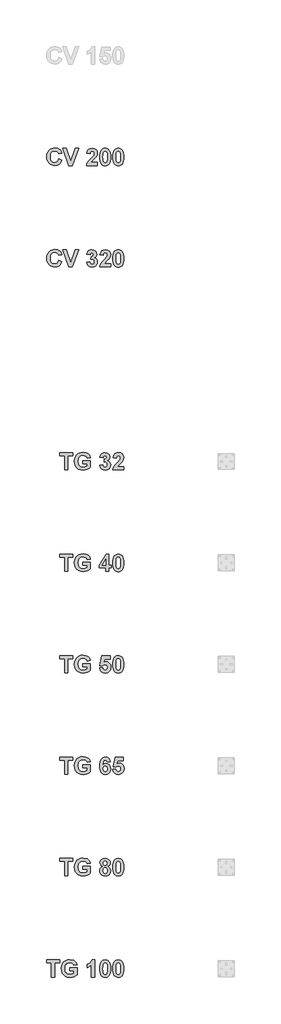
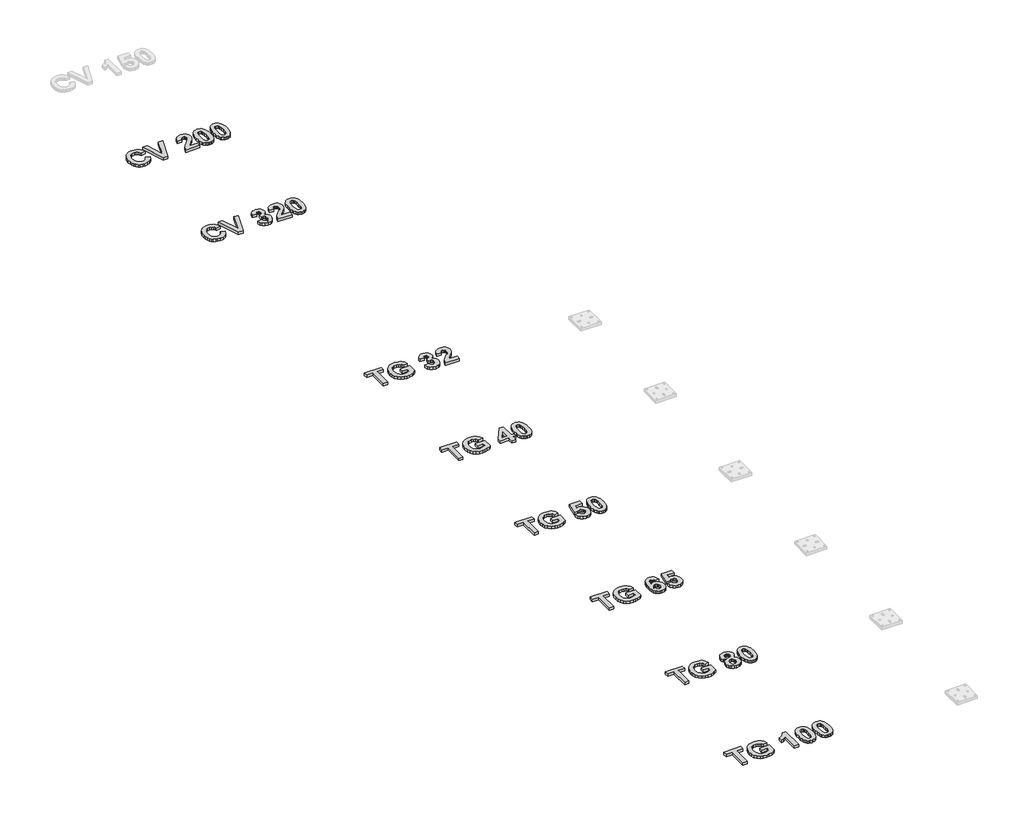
# One storey, part 7 of 9: 8 proxies.
"""IFC4 building model written with IfcOpenShell, lengths in millimetres."""

from ifc_helpers import new_model, si_unit, origin, origin_with_axes, place, context, project, spatial, polyline, outline, extrude, element, save

model = new_model("IFC4")

# Units and contexts
model_context = context("Model", 3, world=origin())
ifc_project = project(units=[si_unit("LENGTHUNIT", "METRE", prefix="MILLI")], contexts=[model_context])

# Site, building, storey
site = spatial("IfcSite", under=ifc_project)
building = spatial("IfcBuilding", under=site)
storey = spatial("IfcBuildingStorey", under=building, Name="Этаж 01", Elevation=0.0)

# Proxies
placement = place(None, origin())
element("IfcBuildingElementProxy", 1, Name="Wellmix_Надпись1", ObjectType="Wellmix_Надпись1", at=placement, inside=storey, context=model_context, shape_type="SweptSolid", body=[
    extrude(outline(polyline([(23888.8435957, -10506.6386509), (23937.4273767, -10522.8332446), (23922.1026098, -10558.6147564), (23911.5816592, -10572.5497773), (23899.1549972, -10583.8476414), (23868.7901341, -10598.81657), (23831.213616, -10603.8062128), (23806.8861417, -10601.6751372), (23784.8281246, -10595.2819101), (23765.0395647, -10584.6265317), (23747.5204621, -10569.709002), (23733.1841348, -10551.0947083), (23722.943901, -10529.3490381), (23716.7997607, -10504.4719914), (23714.751714, -10476.4635682), (23716.8175527, -10446.9289944), (23723.0150687, -10420.8895428), (23733.344262, -10398.3452134), (23747.8051327, -10379.2960063), (23765.6346053, -10364.1570661), (23786.0696047, -10353.3435374), (23809.1101307, -10346.8554202), (23834.7561833, -10344.6927144), (23857.1818999, -10346.4758594), (23877.3935119, -10351.8252943), (23895.3910193, -10360.741019), (23911.1744221, -10373.2230337), (23926.499189, -10393.7351313), (23937.4273767, -10421.6170343), (23888.8435957, -10429.7143311), (23881.4026228, -10412.9108587), (23868.6952439, -10400.0769595), (23851.7019911, -10391.9401251), (23831.4033964, -10389.227847), (23803.9564068, -10394.1542297), (23782.2186442, -10408.9333779), (23773.9572664, -10420.3103172), (23768.0562822, -10434.735604), (23763.3354949, -10472.7312205), (23767.913947, -10512.8065138), (23773.637012, -10527.7912574), (23781.649303, -10539.407399), (23802.7228343, -10554.30516), (23829.315812, -10559.2710803), (23849.3929963, -10556.1001662), (23866.4811393, -10546.5874239), (23879.8685646, -10530.2584025), (23888.8435957, -10506.6386509)])), origin_with_axes(), (0.0, 0.0, 1.0), 30.0),
    extrude(outline(polyline([(24039.592489, -10603.8062128), (23953.6219703, -10348.7413629), (24004.8626768, -10348.7413629), (24069.0084501, -10539.0278382), (24133.3440038, -10348.7413629), (24184.3949298, -10348.7413629), (24093.8696817, -10603.8062128), (24039.592489, -10603.8062128)])), origin_with_axes(), (0.0, 0.0, 1.0), 30.0),
    extrude(outline(polyline([(24463.7516703, -10555.2224319), (24463.7516703, -10603.8062128), (24301.8057338, -10603.8062128), (24306.9772495, -10579.3008194), (24317.304466, -10556.1397038), (24336.4881009, -10529.9579169), (24368.2288718, -10496.3905096), (24405.8053899, -10455.650985), (24412.8272645, -10440.9430044), (24415.1678894, -10426.4248043), (24413.1989178, -10412.2782574), (24407.292003, -10401.8482432), (24397.921596, -10395.4194323), (24385.5621478, -10393.2764954), (24373.2896823, -10395.3878023), (24363.8006626, -10401.7217229), (24357.4113893, -10412.9424888), (24354.4381632, -10429.7143311), (24305.8543822, -10425.2861219), (24314.4577601, -10390.1372114), (24322.0806059, -10376.898052), (24331.9175564, -10366.5490899), (24356.5415625, -10353.1932946), (24386.6375701, -10348.7413629), (24418.7737168, -10353.7310057), (24443.1921276, -10368.6999343), (24458.6117846, -10391.0861133), (24463.7516703, -10418.3275074), (24458.1215186, -10450.4636542), (24440.2821615, -10482.4100206), (24410.0754488, -10514.2931268), (24382.3358811, -10541.9378043), (24373.2264222, -10555.2224319), (24463.7516703, -10555.2224319)])), origin_with_axes(), (0.0, 0.0, 1.0), 30.0),
    extrude(outline(polyline([(24577.1138259, -10348.7413629), (24594.2454602, -10350.3861263), (24609.3923079, -10355.3204165), (24622.554369, -10363.5442336), (24633.7316435, -10375.0575775), (24644.3870219, -10393.185559), (24651.9980065, -10416.4455185), (24656.5645972, -10444.8374563), (24658.0867941, -10478.3613722), (24656.5566897, -10511.853658), (24651.9663764, -10540.2772258), (24644.3158542, -10563.6320756), (24633.6051232, -10581.9182074), (24622.4832014, -10593.2654934), (24609.3606779, -10601.3706978), (24594.2375527, -10606.2338204), (24577.1138259, -10607.8548613), (24559.8062493, -10606.0756701), (24544.2580951, -10600.7380965), (24530.4693633, -10591.8421405), (24518.4400539, -10579.3878021), (24508.6841555, -10562.366873), (24501.7156567, -10539.7711448), (24497.5345574, -10511.6006175), (24496.1408576, -10477.8552911), (24497.670962, -10444.5290631), (24502.2612753, -10416.2241081), (24509.9117975, -10392.9404259), (24520.6225285, -10374.6780167), (24531.7444503, -10363.3307307), (24544.8669739, -10355.2255263), (24559.990099, -10350.3624037), (24577.1138259, -10348.7413629)]), holes=[polyline([(24577.1138259, -10393.2764954), (24560.9192322, -10398.6219765), (24554.5932191, -10406.0945795), (24549.9119693, -10417.8214264), (24546.0214712, -10441.9709816), (24544.7246386, -10478.3613722), (24545.879136, -10514.2694043), (24549.3426282, -10536.8453637), (24554.5694965, -10550.0983612), (24561.0141224, -10558.0375077), (24577.1138259, -10563.3197287), (24593.3084195, -10557.9742476), (24599.6344326, -10550.5016446), (24604.3156824, -10538.7747977), (24608.2061805, -10514.7517628), (24609.5030132, -10478.3613722), (24608.3485158, -10442.4928777), (24604.8850236, -10419.9090107), (24599.6581552, -10406.6164756), (24593.2135293, -10398.6219765), (24577.1138259, -10393.2764954)])]), origin_with_axes(), (0.0, 0.0, 1.0), 30.0),
    extrude(outline(polyline([(24771.4489497, -10348.7413629), (24788.580584, -10350.3861263), (24803.7274317, -10355.3204165), (24816.8894928, -10363.5442336), (24828.0667673, -10375.0575775), (24838.7221457, -10393.185559), (24846.3331303, -10416.4455185), (24850.899721, -10444.8374563), (24852.4219179, -10478.3613722), (24850.8918135, -10511.853658), (24846.3015002, -10540.2772258), (24838.650978, -10563.6320756), (24827.940247, -10581.9182074), (24816.8183252, -10593.2654934), (24803.6958017, -10601.3706978), (24788.5726765, -10606.2338204), (24771.4489497, -10607.8548613), (24754.1413731, -10606.0756701), (24738.5932189, -10600.7380965), (24724.8044871, -10591.8421405), (24712.7751777, -10579.3878021), (24703.0192793, -10562.366873), (24696.0507805, -10539.7711448), (24691.8696812, -10511.6006175), (24690.4759814, -10477.8552911), (24692.0060858, -10444.5290631), (24696.5963991, -10416.2241081), (24704.2469213, -10392.9404259), (24714.9576523, -10374.6780167), (24726.0795741, -10363.3307307), (24739.2020977, -10355.2255263), (24754.3252228, -10350.3624037), (24771.4489497, -10348.7413629)]), holes=[polyline([(24771.4489497, -10393.2764954), (24755.254356, -10398.6219765), (24748.9283429, -10406.0945795), (24744.2470931, -10417.8214264), (24740.3565951, -10441.9709816), (24739.0597624, -10478.3613722), (24740.2142598, -10514.2694043), (24743.677752, -10536.8453637), (24748.9046203, -10550.0983612), (24755.3492462, -10558.0375077), (24771.4489497, -10563.3197287), (24787.6435433, -10557.9742476), (24793.9695565, -10550.5016446), (24798.6508062, -10538.7747977), (24802.5413043, -10514.7517628), (24803.838137, -10478.3613722), (24802.6836396, -10442.4928777), (24799.2201474, -10419.9090107), (24793.993279, -10406.6164756), (24787.5486531, -10398.6219765), (24771.4489497, -10393.2764954)])]), origin_with_axes(), (0.0, 0.0, 1.0), 30.0),
])
element("IfcBuildingElementProxy", 2, Name="Wellmix_Надпись1", ObjectType="Wellmix_Надпись1", at=placement, inside=storey, context=model_context, shape_type="SweptSolid", body=[
    extrude(outline(polyline([(23888.8435957, -12006.6386509), (23937.4273767, -12022.8332446), (23922.1026098, -12058.6147564), (23911.5816592, -12072.5497773), (23899.1549972, -12083.8476414), (23868.7901341, -12098.81657), (23831.213616, -12103.8062128), (23806.8861417, -12101.6751372), (23784.8281246, -12095.2819101), (23765.0395647, -12084.6265317), (23747.5204621, -12069.709002), (23733.1841348, -12051.0947083), (23722.943901, -12029.3490381), (23716.7997607, -12004.4719914), (23714.751714, -11976.4635682), (23716.8175527, -11946.9289944), (23723.0150687, -11920.8895428), (23733.344262, -11898.3452134), (23747.8051327, -11879.2960063), (23765.6346053, -11864.1570661), (23786.0696047, -11853.3435374), (23809.1101307, -11846.8554202), (23834.7561833, -11844.6927144), (23857.1818999, -11846.4758594), (23877.3935119, -11851.8252943), (23895.3910193, -11860.741019), (23911.1744221, -11873.2230337), (23926.499189, -11893.7351313), (23937.4273767, -11921.6170343), (23888.8435957, -11929.7143311), (23881.4026228, -11912.9108587), (23868.6952439, -11900.0769595), (23851.7019911, -11891.9401251), (23831.4033964, -11889.227847), (23803.9564068, -11894.1542297), (23782.2186442, -11908.9333779), (23773.9572664, -11920.3103172), (23768.0562822, -11934.735604), (23763.3354949, -11972.7312205), (23767.913947, -12012.8065138), (23773.637012, -12027.7912574), (23781.649303, -12039.407399), (23802.7228343, -12054.30516), (23829.315812, -12059.2710803), (23849.3929963, -12056.1001662), (23866.4811393, -12046.5874239), (23879.8685646, -12030.2584025), (23888.8435957, -12006.6386509)])), origin_with_axes(), (0.0, 0.0, 1.0), 30.0),
    extrude(outline(polyline([(24039.592489, -12103.8062128), (23953.6219703, -11848.7413629), (24004.8626768, -11848.7413629), (24069.0084501, -12039.0278382), (24133.3440038, -11848.7413629), (24184.3949298, -11848.7413629), (24093.8696817, -12103.8062128), (24039.592489, -12103.8062128)])), origin_with_axes(), (0.0, 0.0, 1.0), 30.0),
    extrude(outline(polyline([(24301.8057338, -12032.5120447), (24350.3895148, -12026.881893), (24354.1376775, -12042.5071455), (24361.3335175, -12053.9572293), (24371.186283, -12060.9791039), (24382.9052223, -12063.3197287), (24395.4781734, -12060.6390806), (24405.86865, -12052.5971364), (24412.8430795, -12040.0162778), (24415.1678894, -12023.7188864), (24413.0407674, -12008.2992294), (24406.6594017, -11996.4537698), (24397.2099195, -11988.9099991), (24385.8784485, -11986.3954089), (24366.5841084, -11990.0012364), (24370.8225372, -11949.9575732), (24384.6527834, -11948.2179196), (24394.766497, -11941.9867966), (24400.9580823, -11932.1182161), (24403.0219441, -11919.4661898), (24401.4799784, -11908.719875), (24396.8540813, -11900.3932602), (24389.6661489, -11895.0556866), (24380.4380772, -11893.2764954), (24371.0518552, -11895.3403572), (24363.1364312, -11901.5319425), (24357.3718518, -11911.6931012), (24354.4381632, -11925.6656827), (24305.8543822, -11918.3907676), (24311.4133663, -11896.6530049), (24319.2339, -11879.7704573), (24329.9564923, -11866.857483), (24344.2216519, -11857.0284401), (24361.2149047, -11850.8131322), (24380.1217765, -11848.7413629), (24410.7713102, -11854.4822198), (24423.5577643, -11861.6582909), (24434.6520098, -11871.7047906), (24447.3672963, -11891.7266222), (24451.6057251, -11914.2155989), (24449.3323141, -11930.1611058), (24442.5120812, -11944.4064966), (24431.1450263, -11956.9517714), (24415.2311495, -11967.7969302), (24435.0948308, -11975.3486084), (24450.5303028, -11988.6411435), (24460.4463284, -12006.5042232), (24463.7516703, -12027.7675348), (24457.8922006, -12058.5356813), (24440.3137916, -12084.4169826), (24427.8772451, -12094.6710545), (24414.0054844, -12101.9953916), (24381.9563203, -12107.8548613), (24351.694255, -12102.6438079), (24327.0781563, -12087.0106479), (24309.863493, -12062.9638905), (24301.8057338, -12032.5120447)])), origin_with_axes(), (0.0, 0.0, 1.0), 30.0),
    extrude(outline(polyline([(24658.0867941, -12055.2224319), (24658.0867941, -12103.8062128), (24496.1408576, -12103.8062128), (24501.3123734, -12079.3008194), (24511.6395898, -12056.1397038), (24530.8232247, -12029.9579169), (24562.5639956, -11996.3905096), (24600.1405137, -11955.650985), (24607.1623883, -11940.9430044), (24609.5030132, -11926.4248043), (24607.5340416, -11912.2782574), (24601.6271268, -11901.8482432), (24592.2567198, -11895.4194323), (24579.8972716, -11893.2764954), (24567.6248061, -11895.3878023), (24558.1357864, -11901.7217229), (24551.7465131, -11912.9424888), (24548.773287, -11929.7143311), (24500.189506, -11925.2861219), (24508.7928839, -11890.1372114), (24516.4157297, -11876.898052), (24526.2526802, -11866.5490899), (24550.8766863, -11853.1932946), (24580.9726939, -11848.7413629), (24613.1088406, -11853.7310057), (24637.5272514, -11868.6999343), (24652.9469084, -11891.0861133), (24658.0867941, -11918.3275074), (24652.4566424, -11950.4636542), (24634.6172853, -11982.4100206), (24604.4105726, -12014.2931268), (24576.6710049, -12041.9378043), (24567.561546, -12055.2224319), (24658.0867941, -12055.2224319)])), origin_with_axes(), (0.0, 0.0, 1.0), 30.0),
    extrude(outline(polyline([(24771.4489497, -11848.7413629), (24788.580584, -11850.3861263), (24803.7274317, -11855.3204165), (24816.8894928, -11863.5442336), (24828.0667673, -11875.0575775), (24838.7221457, -11893.185559), (24846.3331303, -11916.4455185), (24850.899721, -11944.8374563), (24852.4219179, -11978.3613722), (24850.8918135, -12011.853658), (24846.3015002, -12040.2772258), (24838.650978, -12063.6320756), (24827.940247, -12081.9182074), (24816.8183252, -12093.2654934), (24803.6958017, -12101.3706978), (24788.5726765, -12106.2338204), (24771.4489497, -12107.8548613), (24754.1413731, -12106.0756701), (24738.5932189, -12100.7380965), (24724.8044871, -12091.8421405), (24712.7751777, -12079.3878021), (24703.0192793, -12062.366873), (24696.0507805, -12039.7711448), (24691.8696812, -12011.6006175), (24690.4759814, -11977.8552911), (24692.0060858, -11944.5290631), (24696.5963991, -11916.2241081), (24704.2469213, -11892.9404259), (24714.9576523, -11874.6780167), (24726.0795741, -11863.3307307), (24739.2020977, -11855.2255263), (24754.3252228, -11850.3624037), (24771.4489497, -11848.7413629)]), holes=[polyline([(24771.4489497, -11893.2764954), (24755.254356, -11898.6219765), (24748.9283429, -11906.0945795), (24744.2470931, -11917.8214264), (24740.3565951, -11941.9709816), (24739.0597624, -11978.3613722), (24740.2142598, -12014.2694043), (24743.677752, -12036.8453637), (24748.9046203, -12050.0983612), (24755.3492462, -12058.0375077), (24771.4489497, -12063.3197287), (24787.6435433, -12057.9742476), (24793.9695565, -12050.5016446), (24798.6508062, -12038.7747977), (24802.5413043, -12014.7517628), (24803.838137, -11978.3613722), (24802.6836396, -11942.4928777), (24799.2201474, -11919.9090107), (24793.993279, -11906.6164756), (24787.5486531, -11898.6219765), (24771.4489497, -11893.2764954)])]), origin_with_axes(), (0.0, 0.0, 1.0), 30.0),
])
element("IfcBuildingElementProxy", 3, Name="Wellmix_Надпись1", ObjectType="Wellmix_Надпись1", at=placement, inside=storey, context=model_context, shape_type="SweptSolid", body=[
    extrude(outline(polyline([(23977.9138608, -15103.8062128), (23977.9138608, -14893.2764954), (23905.0381894, -14893.2764954), (23905.0381894, -14848.7413629), (24099.3733132, -14848.7413629), (24099.3733132, -14893.2764954), (24026.4976418, -14893.2764954), (24026.4976418, -15103.8062128), (23977.9138608, -15103.8062128)])), origin_with_axes(), (0.0, 0.0, 1.0), 30.0),
    extrude(outline(polyline([(24249.1733044, -15010.6872994), (24249.1733044, -14966.1521668), (24358.4868116, -14966.1521668), (24358.4868116, -15067.8744582), (24338.971061, -15082.7959417), (24312.3069156, -15095.8038062), (24281.8787924, -15104.8420975), (24251.0711084, -15107.8548613), (24214.2378968, -15103.6638775), (24182.4338658, -15091.0909264), (24156.7818825, -15070.7290716), (24138.4048143, -15043.1713769), (24127.3501063, -15010.6477618), (24123.6652037, -14975.388146), (24127.8324648, -14937.8669805), (24140.3342483, -14904.7582092), (24160.8700685, -14877.453555), (24189.1394397, -14857.3447407), (24216.6259668, -14847.855721), (24250.1222064, -14844.6927144), (24292.3246216, -14849.8009701), (24309.5412618, -14856.1862896), (24324.1681903, -14865.1257369), (24346.0799183, -14889.4650725), (24358.4868116, -14921.6170343), (24309.9030306, -14929.7143311), (24301.7266586, -14912.9108587), (24288.5843663, -14900.0769595), (24271.0138648, -14891.9401251), (24249.5528652, -14889.227847), (24217.7488341, -14894.525883), (24204.5630505, -14901.148428), (24193.1880881, -14910.419991), (24184.0272303, -14922.3010344), (24177.4837605, -14936.7520207), (24172.2489846, -14973.3638218), (24177.4521304, -15012.7195311), (24183.9560627, -15028.1807026), (24193.0615678, -15040.830752), (24204.2783799, -15050.6696793), (24217.1162328, -15057.6974845), (24247.6550613, -15063.3197287), (24281.0880408, -15057.1518659), (24309.9030306, -15042.1908448), (24309.9030306, -15010.6872994), (24249.1733044, -15010.6872994)])), origin_with_axes(), (0.0, 0.0, 1.0), 30.0),
    extrude(outline(polyline([(24496.1408576, -15032.5120447), (24544.7246386, -15026.881893), (24548.4728013, -15042.5071455), (24555.6686413, -15053.9572293), (24565.5214068, -15060.9791039), (24577.2403461, -15063.3197287), (24589.8132972, -15060.6390806), (24600.2037738, -15052.5971364), (24607.1782033, -15040.0162778), (24609.5030132, -15023.7188864), (24607.3758912, -15008.2992294), (24600.9945255, -14996.4537698), (24591.5450433, -14988.9099991), (24580.2135723, -14986.3954089), (24560.9192322, -14990.0012364), (24565.157661, -14949.9575732), (24578.9879072, -14948.2179196), (24589.1016208, -14941.9867966), (24595.2932061, -14932.1182161), (24597.3570679, -14919.4661898), (24595.8151022, -14908.719875), (24591.1892051, -14900.3932602), (24584.0012727, -14895.0556866), (24574.773201, -14893.2764954), (24565.386979, -14895.3403572), (24557.471555, -14901.5319425), (24551.7069756, -14911.6931012), (24548.773287, -14925.6656827), (24500.189506, -14918.3907676), (24505.7484901, -14896.6530049), (24513.5690238, -14879.7704573), (24524.2916161, -14866.857483), (24538.5567757, -14857.0284401), (24555.5500285, -14850.8131322), (24574.4569003, -14848.7413629), (24605.106434, -14854.4822198), (24617.8928881, -14861.6582909), (24628.9871336, -14871.7047906), (24641.7024201, -14891.7266222), (24645.9408489, -14914.2155989), (24643.6674379, -14930.1611058), (24636.847205, -14944.4064966), (24625.4801501, -14956.9517714), (24609.5662733, -14967.7969302), (24629.4299546, -14975.3486084), (24644.8654266, -14988.6411435), (24654.7814522, -15006.5042232), (24658.0867941, -15027.7675348), (24652.2273244, -15058.5356813), (24634.6489154, -15084.4169826), (24622.2123689, -15094.6710545), (24608.3406082, -15101.9953916), (24576.2914441, -15107.8548613), (24546.0293788, -15102.6438079), (24521.4132801, -15087.0106479), (24504.1986168, -15062.9638905), (24496.1408576, -15032.5120447)])), origin_with_axes(), (0.0, 0.0, 1.0), 30.0),
    extrude(outline(polyline([(24852.4219179, -15055.2224319), (24852.4219179, -15103.8062128), (24690.4759814, -15103.8062128), (24695.6474972, -15079.3008194), (24705.9747136, -15056.1397038), (24725.1583485, -15029.9579169), (24756.8991194, -14996.3905096), (24794.4756375, -14955.650985), (24801.4975121, -14940.9430044), (24803.838137, -14926.4248043), (24801.8691654, -14912.2782574), (24795.9622506, -14901.8482432), (24786.5918436, -14895.4194323), (24774.2323954, -14893.2764954), (24761.9599299, -14895.3878023), (24752.4709102, -14901.7217229), (24746.0816369, -14912.9424888), (24743.1084108, -14929.7143311), (24694.5246298, -14925.2861219), (24703.1280077, -14890.1372114), (24710.7508535, -14876.898052), (24720.587804, -14866.5490899), (24745.2118101, -14853.1932946), (24775.3078177, -14848.7413629), (24807.4439644, -14853.7310057), (24831.8623752, -14868.6999343), (24847.2820322, -14891.0861133), (24852.4219179, -14918.3275074), (24846.7917662, -14950.4636542), (24828.9524091, -14982.4100206), (24798.7456964, -15014.2931268), (24771.0061287, -15041.9378043), (24761.8966698, -15055.2224319), (24852.4219179, -15055.2224319)])), origin_with_axes(), (0.0, 0.0, 1.0), 30.0),
])
element("IfcBuildingElementProxy", 4, Name="Wellmix_Надпись1", ObjectType="Wellmix_Надпись1", at=placement, inside=storey, context=model_context, shape_type="SweptSolid", body=[
    extrude(outline(polyline([(23977.9138608, -16603.8062128), (23977.9138608, -16393.2764954), (23905.0381894, -16393.2764954), (23905.0381894, -16348.7413629), (24099.3733132, -16348.7413629), (24099.3733132, -16393.2764954), (24026.4976418, -16393.2764954), (24026.4976418, -16603.8062128), (23977.9138608, -16603.8062128)])), origin_with_axes(), (0.0, 0.0, 1.0), 30.0),
    extrude(outline(polyline([(24249.1733044, -16510.6872994), (24249.1733044, -16466.1521668), (24358.4868116, -16466.1521668), (24358.4868116, -16567.8744582), (24338.971061, -16582.7959417), (24312.3069156, -16595.8038062), (24281.8787924, -16604.8420975), (24251.0711084, -16607.8548613), (24214.2378968, -16603.6638775), (24182.4338658, -16591.0909264), (24156.7818825, -16570.7290716), (24138.4048143, -16543.1713769), (24127.3501063, -16510.6477618), (24123.6652037, -16475.388146), (24127.8324648, -16437.8669805), (24140.3342483, -16404.7582092), (24160.8700685, -16377.453555), (24189.1394397, -16357.3447407), (24216.6259668, -16347.855721), (24250.1222064, -16344.6927144), (24292.3246216, -16349.8009701), (24309.5412618, -16356.1862896), (24324.1681903, -16365.1257369), (24346.0799183, -16389.4650725), (24358.4868116, -16421.6170343), (24309.9030306, -16429.7143311), (24301.7266586, -16412.9108587), (24288.5843663, -16400.0769595), (24271.0138648, -16391.9401251), (24249.5528652, -16389.227847), (24217.7488341, -16394.525883), (24204.5630505, -16401.148428), (24193.1880881, -16410.419991), (24184.0272303, -16422.3010344), (24177.4837605, -16436.7520207), (24172.2489846, -16473.3638218), (24177.4521304, -16512.7195311), (24183.9560627, -16528.1807026), (24193.0615678, -16540.830752), (24204.2783799, -16550.6696793), (24217.1162328, -16557.6974845), (24247.6550613, -16563.3197287), (24281.0880408, -16557.1518659), (24309.9030306, -16542.1908448), (24309.9030306, -16510.6872994), (24249.1733044, -16510.6872994)])), origin_with_axes(), (0.0, 0.0, 1.0), 30.0),
    extrude(outline(polyline([(24585.2111227, -16603.8062128), (24585.2111227, -16551.1737835), (24488.0435608, -16551.1737835), (24488.0435608, -16510.8770797), (24591.6636561, -16352.7900113), (24633.7949036, -16352.7900113), (24633.7949036, -16510.6872994), (24666.1840909, -16510.6872994), (24666.1840909, -16551.1737835), (24633.7949036, -16551.1737835), (24633.7949036, -16603.8062128), (24585.2111227, -16603.8062128)]), holes=[polyline([(24585.2111227, -16510.6872994), (24585.2111227, -16427.8165272), (24530.9339299, -16510.6872994), (24585.2111227, -16510.6872994)])]), origin_with_axes(), (0.0, 0.0, 1.0), 30.0),
    extrude(outline(polyline([(24771.4489497, -16348.7413629), (24788.580584, -16350.3861263), (24803.7274317, -16355.3204165), (24816.8894928, -16363.5442336), (24828.0667673, -16375.0575775), (24838.7221457, -16393.185559), (24846.3331303, -16416.4455185), (24850.899721, -16444.8374563), (24852.4219179, -16478.3613722), (24850.8918135, -16511.853658), (24846.3015002, -16540.2772258), (24838.650978, -16563.6320756), (24827.940247, -16581.9182074), (24816.8183252, -16593.2654934), (24803.6958017, -16601.3706978), (24788.5726765, -16606.2338204), (24771.4489497, -16607.8548613), (24754.1413731, -16606.0756701), (24738.5932189, -16600.7380965), (24724.8044871, -16591.8421405), (24712.7751777, -16579.3878021), (24703.0192793, -16562.366873), (24696.0507805, -16539.7711448), (24691.8696812, -16511.6006175), (24690.4759814, -16477.8552911), (24692.0060858, -16444.5290631), (24696.5963991, -16416.2241081), (24704.2469213, -16392.9404259), (24714.9576523, -16374.6780167), (24726.0795741, -16363.3307307), (24739.2020977, -16355.2255263), (24754.3252228, -16350.3624037), (24771.4489497, -16348.7413629)]), holes=[polyline([(24771.4489497, -16393.2764954), (24755.254356, -16398.6219765), (24748.9283429, -16406.0945795), (24744.2470931, -16417.8214264), (24740.3565951, -16441.9709816), (24739.0597624, -16478.3613722), (24740.2142598, -16514.2694043), (24743.677752, -16536.8453637), (24748.9046203, -16550.0983612), (24755.3492462, -16558.0375077), (24771.4489497, -16563.3197287), (24787.6435433, -16557.9742476), (24793.9695565, -16550.5016446), (24798.6508062, -16538.7747977), (24802.5413043, -16514.7517628), (24803.838137, -16478.3613722), (24802.6836396, -16442.4928777), (24799.2201474, -16419.9090107), (24793.993279, -16406.6164756), (24787.5486531, -16398.6219765), (24771.4489497, -16393.2764954)])]), origin_with_axes(), (0.0, 0.0, 1.0), 30.0),
])
element("IfcBuildingElementProxy", 5, Name="Wellmix_Надпись1", ObjectType="Wellmix_Надпись1", at=placement, inside=storey, context=model_context, shape_type="SweptSolid", body=[
    extrude(outline(polyline([(23977.9138608, -18103.8062128), (23977.9138608, -17893.2764954), (23905.0381894, -17893.2764954), (23905.0381894, -17848.7413629), (24099.3733132, -17848.7413629), (24099.3733132, -17893.2764954), (24026.4976418, -17893.2764954), (24026.4976418, -18103.8062128), (23977.9138608, -18103.8062128)])), origin_with_axes(), (0.0, 0.0, 1.0), 30.0),
    extrude(outline(polyline([(24249.1733044, -18010.6872994), (24249.1733044, -17966.1521668), (24358.4868116, -17966.1521668), (24358.4868116, -18067.8744582), (24338.971061, -18082.7959417), (24312.3069156, -18095.8038062), (24281.8787924, -18104.8420975), (24251.0711084, -18107.8548613), (24214.2378968, -18103.6638775), (24182.4338658, -18091.0909264), (24156.7818825, -18070.7290716), (24138.4048143, -18043.1713769), (24127.3501063, -18010.6477618), (24123.6652037, -17975.388146), (24127.8324648, -17937.8669805), (24140.3342483, -17904.7582092), (24160.8700685, -17877.453555), (24189.1394397, -17857.3447407), (24216.6259668, -17847.855721), (24250.1222064, -17844.6927144), (24292.3246216, -17849.8009701), (24309.5412618, -17856.1862896), (24324.1681903, -17865.1257369), (24346.0799183, -17889.4650725), (24358.4868116, -17921.6170343), (24309.9030306, -17929.7143311), (24301.7266586, -17912.9108587), (24288.5843663, -17900.0769595), (24271.0138648, -17891.9401251), (24249.5528652, -17889.227847), (24217.7488341, -17894.525883), (24204.5630505, -17901.148428), (24193.1880881, -17910.419991), (24184.0272303, -17922.3010344), (24177.4837605, -17936.7520207), (24172.2489846, -17973.3638218), (24177.4521304, -18012.7195311), (24183.9560627, -18028.1807026), (24193.0615678, -18040.830752), (24204.2783799, -18050.6696793), (24217.1162328, -18057.6974845), (24247.6550613, -18063.3197287), (24281.0880408, -18057.1518659), (24309.9030306, -18042.1908448), (24309.9030306, -18010.6872994), (24249.1733044, -18010.6872994)])), origin_with_axes(), (0.0, 0.0, 1.0), 30.0),
    extrude(outline(polyline([(24496.1408576, -18032.0059637), (24540.6759901, -18026.881893), (24544.8195288, -18041.9536193), (24553.0749759, -18053.5144083), (24564.177129, -18060.8683986), (24576.8607853, -18063.3197287), (24591.0547773, -18060.7181558), (24602.8923294, -18052.9134371), (24610.8868285, -18039.8739425), (24613.5516616, -18021.568042), (24611.0766089, -18004.4087313), (24603.651451, -17992.1520808), (24592.2567198, -17984.7980906), (24577.8729474, -17982.3467605), (24559.0530583, -17987.407571), (24542.3207536, -18002.5900025), (24500.189506, -17996.3272495), (24528.5300449, -17852.7900113), (24649.9894973, -17852.7900113), (24649.9894973, -17901.3737922), (24567.8145865, -17901.3737922), (24558.0092662, -17947.7434686), (24573.4921833, -17940.2945881), (24589.3230312, -17937.8116279), (24617.4421597, -17943.5603924), (24640.9432985, -17960.8066857), (24656.8374065, -17987.2256981), (24662.1354425, -18020.4926197), (24657.7230483, -18049.4183148), (24644.4858658, -18075.0861132), (24631.2684521, -18089.4224405), (24615.7183211, -18099.6626742), (24597.8354727, -18105.8068145), (24577.6199069, -18107.8548613), (24546.614535, -18102.7149756), (24521.9193612, -18087.2953185), (24504.7046979, -18063.1932085), (24496.1408576, -18032.0059637)])), origin_with_axes(), (0.0, 0.0, 1.0), 30.0),
    extrude(outline(polyline([(24771.4489497, -17848.7413629), (24788.580584, -17850.3861263), (24803.7274317, -17855.3204165), (24816.8894928, -17863.5442336), (24828.0667673, -17875.0575775), (24838.7221457, -17893.185559), (24846.3331303, -17916.4455185), (24850.899721, -17944.8374563), (24852.4219179, -17978.3613722), (24850.8918135, -18011.853658), (24846.3015002, -18040.2772258), (24838.650978, -18063.6320756), (24827.940247, -18081.9182074), (24816.8183252, -18093.2654934), (24803.6958017, -18101.3706978), (24788.5726765, -18106.2338204), (24771.4489497, -18107.8548613), (24754.1413731, -18106.0756701), (24738.5932189, -18100.7380965), (24724.8044871, -18091.8421405), (24712.7751777, -18079.3878021), (24703.0192793, -18062.366873), (24696.0507805, -18039.7711448), (24691.8696812, -18011.6006175), (24690.4759814, -17977.8552911), (24692.0060858, -17944.5290631), (24696.5963991, -17916.2241081), (24704.2469213, -17892.9404259), (24714.9576523, -17874.6780167), (24726.0795741, -17863.3307307), (24739.2020977, -17855.2255263), (24754.3252228, -17850.3624037), (24771.4489497, -17848.7413629)]), holes=[polyline([(24771.4489497, -17893.2764954), (24755.254356, -17898.6219765), (24748.9283429, -17906.0945795), (24744.2470931, -17917.8214264), (24740.3565951, -17941.9709816), (24739.0597624, -17978.3613722), (24740.2142598, -18014.2694043), (24743.677752, -18036.8453637), (24748.9046203, -18050.0983612), (24755.3492462, -18058.0375077), (24771.4489497, -18063.3197287), (24787.6435433, -18057.9742476), (24793.9695565, -18050.5016446), (24798.6508062, -18038.7747977), (24802.5413043, -18014.7517628), (24803.838137, -17978.3613722), (24802.6836396, -17942.4928777), (24799.2201474, -17919.9090107), (24793.993279, -17906.6164756), (24787.5486531, -17898.6219765), (24771.4489497, -17893.2764954)])]), origin_with_axes(), (0.0, 0.0, 1.0), 30.0),
])
element("IfcBuildingElementProxy", 6, Name="Wellmix_Надпись1", ObjectType="Wellmix_Надпись1", at=placement, inside=storey, context=model_context, shape_type="SweptSolid", body=[
    extrude(outline(polyline([(23977.9138608, -19603.8062128), (23977.9138608, -19393.2764954), (23905.0381894, -19393.2764954), (23905.0381894, -19348.7413629), (24099.3733132, -19348.7413629), (24099.3733132, -19393.2764954), (24026.4976418, -19393.2764954), (24026.4976418, -19603.8062128), (23977.9138608, -19603.8062128)])), origin_with_axes(), (0.0, 0.0, 1.0), 30.0),
    extrude(outline(polyline([(24249.1733044, -19510.6872994), (24249.1733044, -19466.1521668), (24358.4868116, -19466.1521668), (24358.4868116, -19567.8744582), (24338.971061, -19582.7959417), (24312.3069156, -19595.8038062), (24281.8787924, -19604.8420975), (24251.0711084, -19607.8548613), (24214.2378968, -19603.6638775), (24182.4338658, -19591.0909264), (24156.7818825, -19570.7290716), (24138.4048143, -19543.1713769), (24127.3501063, -19510.6477618), (24123.6652037, -19475.388146), (24127.8324648, -19437.8669805), (24140.3342483, -19404.7582092), (24160.8700685, -19377.453555), (24189.1394397, -19357.3447407), (24216.6259668, -19347.855721), (24250.1222064, -19344.6927144), (24292.3246216, -19349.8009701), (24309.5412618, -19356.1862896), (24324.1681903, -19365.1257369), (24346.0799183, -19389.4650725), (24358.4868116, -19421.6170343), (24309.9030306, -19429.7143311), (24301.7266586, -19412.9108587), (24288.5843663, -19400.0769595), (24271.0138648, -19391.9401251), (24249.5528652, -19389.227847), (24217.7488341, -19394.525883), (24204.5630505, -19401.148428), (24193.1880881, -19410.419991), (24184.0272303, -19422.3010344), (24177.4837605, -19436.7520207), (24172.2489846, -19473.3638218), (24177.4521304, -19512.7195311), (24183.9560627, -19528.1807026), (24193.0615678, -19540.830752), (24204.2783799, -19550.6696793), (24217.1162328, -19557.6974845), (24247.6550613, -19563.3197287), (24281.0880408, -19557.1518659), (24309.9030306, -19542.1908448), (24309.9030306, -19510.6872994), (24249.1733044, -19510.6872994)])), origin_with_axes(), (0.0, 0.0, 1.0), 30.0),
    extrude(outline(polyline([(24654.0381457, -19416.4297035), (24605.4543647, -19421.6170343), (24602.4811386, -19409.0203606), (24596.8509869, -19400.2034798), (24588.8485802, -19395.0082415), (24578.7585893, -19393.2764954), (24565.157661, -19396.6371899), (24553.8340975, -19406.7192733), (24545.5312052, -19427.5555791), (24540.9922908, -19463.1789406), (24561.0141224, -19447.1899424), (24585.4009031, -19441.8602763), (24613.2274534, -19447.5536882), (24636.7364997, -19464.6339237), (24652.7492205, -19490.7129129), (24658.0867941, -19523.4025858), (24652.6306078, -19557.8398198), (24645.8103748, -19572.2295229), (24636.2620488, -19584.7332832), (24624.5707857, -19594.8489736), (24611.3217419, -19602.0744667), (24580.1503122, -19607.8548613), (24562.6193482, -19605.9886874), (24546.7173327, -19600.3901657), (24532.4442655, -19591.0592964), (24519.8001468, -19577.9960792), (24509.4492078, -19560.682572), (24502.0556799, -19538.6008324), (24497.6195632, -19511.7508603), (24496.1408576, -19480.1326559), (24497.6848002, -19447.6802084), (24502.3166279, -19420.0987911), (24510.0363409, -19397.3884039), (24520.8439389, -19379.5490469), (24534.1186821, -19366.0706851), (24549.2398304, -19356.4432839), (24566.2073838, -19350.6668431), (24585.0213423, -19348.7413629), (24610.3412099, -19353.0746819), (24630.8849376, -19366.0746389), (24645.7510685, -19387.330043), (24654.0381457, -19416.4297035)]), holes=[polyline([(24544.7246386, -19522.3271635), (24547.349934, -19539.7474222), (24555.2258204, -19552.6603966), (24566.4703087, -19560.6548957), (24579.2014102, -19563.3197287), (24591.0943149, -19561.1372542), (24600.8363751, -19554.5898306), (24607.3363537, -19543.0606716), (24609.5030132, -19525.932991), (24607.1702958, -19508.1806166), (24600.1721438, -19495.9160587), (24589.6788695, -19488.7755713), (24576.8607853, -19486.3954089), (24564.422262, -19488.6727736), (24554.0555079, -19495.5048678), (24547.0573559, -19506.7651712), (24544.7246386, -19522.3271635)])]), origin_with_axes(), (0.0, 0.0, 1.0), 30.0),
    extrude(outline(polyline([(24690.4759814, -19532.0059637), (24735.0111139, -19526.881893), (24739.1546526, -19541.9536193), (24747.4100997, -19553.5144083), (24758.5122528, -19560.8683986), (24771.1959091, -19563.3197287), (24785.3899011, -19560.7181558), (24797.2274532, -19552.9134371), (24805.2219523, -19539.8739425), (24807.8867854, -19521.568042), (24805.4117327, -19504.4087313), (24797.9865748, -19492.1520808), (24786.5918436, -19484.7980906), (24772.2080712, -19482.3467605), (24753.3881821, -19487.407571), (24736.6558774, -19502.5900025), (24694.5246298, -19496.3272495), (24722.8651687, -19352.7900113), (24844.3246211, -19352.7900113), (24844.3246211, -19401.3737922), (24762.1497103, -19401.3737922), (24752.34439, -19447.7434686), (24767.8273071, -19440.2945881), (24783.658155, -19437.8116279), (24811.7772835, -19443.5603924), (24835.2784223, -19460.8066857), (24851.1725303, -19487.2256981), (24856.4705663, -19520.4926197), (24852.0581722, -19549.4183148), (24838.8209896, -19575.0861132), (24825.6035759, -19589.4224405), (24810.0534449, -19599.6626742), (24792.1705965, -19605.8068145), (24771.9550307, -19607.8548613), (24740.9496588, -19602.7149756), (24716.254485, -19587.2953185), (24699.0398217, -19563.1932085), (24690.4759814, -19532.0059637)])), origin_with_axes(), (0.0, 0.0, 1.0), 30.0),
])
element("IfcBuildingElementProxy", 7, Name="Wellmix_Надпись1", ObjectType="Wellmix_Надпись1", at=placement, inside=storey, context=model_context, shape_type="SweptSolid", body=[
    extrude(outline(polyline([(23977.9138608, -21103.8062128), (23977.9138608, -20893.2764954), (23905.0381894, -20893.2764954), (23905.0381894, -20848.7413629), (24099.3733132, -20848.7413629), (24099.3733132, -20893.2764954), (24026.4976418, -20893.2764954), (24026.4976418, -21103.8062128), (23977.9138608, -21103.8062128)])), origin_with_axes(), (0.0, 0.0, 1.0), 30.0),
    extrude(outline(polyline([(24249.1733044, -21010.6872994), (24249.1733044, -20966.1521668), (24358.4868116, -20966.1521668), (24358.4868116, -21067.8744582), (24338.971061, -21082.7959417), (24312.3069156, -21095.8038062), (24281.8787924, -21104.8420975), (24251.0711084, -21107.8548613), (24214.2378968, -21103.6638775), (24182.4338658, -21091.0909264), (24156.7818825, -21070.7290716), (24138.4048143, -21043.1713769), (24127.3501063, -21010.6477618), (24123.6652037, -20975.388146), (24127.8324648, -20937.8669805), (24140.3342483, -20904.7582092), (24160.8700685, -20877.453555), (24189.1394397, -20857.3447407), (24216.6259668, -20847.855721), (24250.1222064, -20844.6927144), (24292.3246216, -20849.8009701), (24309.5412618, -20856.1862896), (24324.1681903, -20865.1257369), (24346.0799183, -20889.4650725), (24358.4868116, -20921.6170343), (24309.9030306, -20929.7143311), (24301.7266586, -20912.9108587), (24288.5843663, -20900.0769595), (24271.0138648, -20891.9401251), (24249.5528652, -20889.227847), (24217.7488341, -20894.525883), (24204.5630505, -20901.148428), (24193.1880881, -20910.419991), (24184.0272303, -20922.3010344), (24177.4837605, -20936.7520207), (24172.2489846, -20973.3638218), (24177.4521304, -21012.7195311), (24183.9560627, -21028.1807026), (24193.0615678, -21040.830752), (24204.2783799, -21050.6696793), (24217.1162328, -21057.6974845), (24247.6550613, -21063.3197287), (24281.0880408, -21057.1518659), (24309.9030306, -21042.1908448), (24309.9030306, -21010.6872994), (24249.1733044, -21010.6872994)])), origin_with_axes(), (0.0, 0.0, 1.0), 30.0),
    extrude(outline(polyline([(24538.7781862, -20966.9745485), (24521.3025749, -20957.5013438), (24509.3622251, -20945.0232829), (24502.4826858, -20930.3627475), (24500.189506, -20914.3421192), (24505.1949639, -20888.3501127), (24520.2113376, -20867.3082114), (24544.4478755, -20853.383075), (24577.1138259, -20848.7413629), (24609.5820883, -20853.383075), (24633.8581638, -20867.3082114), (24648.9931502, -20888.3501127), (24654.0381457, -20914.3421192), (24651.4840179, -20931.0823314), (24643.8216345, -20945.8772947), (24631.5254464, -20958.0627775), (24615.0699047, -20966.9745485), (24633.6130308, -20977.3808401), (24647.1111613, -20991.6459998), (24655.3428859, -21009.089981), (24658.0867941, -21029.0327375), (24652.6464228, -21060.7893235), (24645.8459587, -21074.2004713), (24636.3253089, -21085.9668558), (24624.5470632, -21095.5428582), (24610.9738112, -21102.3828599), (24578.4422886, -21107.8548613), (24547.6662347, -21103.3317619), (24522.5203324, -21089.7624637), (24510.9793122, -21078.0791081), (24502.7357263, -21064.410966), (24497.7895748, -21048.7580372), (24496.1408576, -21031.1203218), (24498.7108004, -21011.4543284), (24506.420629, -20993.4489135), (24519.649904, -20978.2427594), (24538.7781862, -20966.9745485)]), holes=[polyline([(24548.773287, -20917.3153453), (24550.6948135, -20931.0032563), (24556.4593929, -20941.3225652), (24565.4186091, -20947.7988212), (24576.9240455, -20949.9575732), (24588.5955397, -20947.7750986), (24597.6733686, -20941.227675), (24603.5091157, -20930.8371984), (24605.4543647, -20917.1255649), (24603.5328383, -20904.0781628), (24597.7682588, -20893.9090967), (24588.8406727, -20887.3616731), (24577.4301265, -20885.1791986), (24565.6637421, -20887.3774881), (24556.5542831, -20893.9723568), (24550.718536, -20904.2046831), (24548.773287, -20917.3153453)]), polyline([(24544.7246386, -21027.0084133), (24547.0810785, -21045.6464295), (24554.1503981, -21059.6822712), (24564.7464702, -21068.4833369), (24577.683167, -21071.4170255), (24590.2798407, -21068.5940422), (24600.4884444, -21060.1250921), (24607.249371, -21046.3422909), (24609.5030132, -21027.5777545), (24607.2098334, -21010.8059121), (24600.3302941, -20997.6873423), (24589.9240025, -20989.2183922), (24577.0505657, -20986.3954089), (24562.8091286, -20989.597953), (24552.7270452, -20999.2055855), (24546.7252402, -21012.5613807), (24544.7246386, -21027.0084133)])]), origin_with_axes(), (0.0, 0.0, 1.0), 30.0),
    extrude(outline(polyline([(24771.4489497, -20848.7413629), (24788.580584, -20850.3861263), (24803.7274317, -20855.3204165), (24816.8894928, -20863.5442336), (24828.0667673, -20875.0575775), (24838.7221457, -20893.185559), (24846.3331303, -20916.4455185), (24850.899721, -20944.8374563), (24852.4219179, -20978.3613722), (24850.8918135, -21011.853658), (24846.3015002, -21040.2772258), (24838.650978, -21063.6320756), (24827.940247, -21081.9182074), (24816.8183252, -21093.2654934), (24803.6958017, -21101.3706978), (24788.5726765, -21106.2338204), (24771.4489497, -21107.8548613), (24754.1413731, -21106.0756701), (24738.5932189, -21100.7380965), (24724.8044871, -21091.8421405), (24712.7751777, -21079.3878021), (24703.0192793, -21062.366873), (24696.0507805, -21039.7711448), (24691.8696812, -21011.6006175), (24690.4759814, -20977.8552911), (24692.0060858, -20944.5290631), (24696.5963991, -20916.2241081), (24704.2469213, -20892.9404259), (24714.9576523, -20874.6780167), (24726.0795741, -20863.3307307), (24739.2020977, -20855.2255263), (24754.3252228, -20850.3624037), (24771.4489497, -20848.7413629)]), holes=[polyline([(24771.4489497, -20893.2764954), (24755.254356, -20898.6219765), (24748.9283429, -20906.0945795), (24744.2470931, -20917.8214264), (24740.3565951, -20941.9709816), (24739.0597624, -20978.3613722), (24740.2142598, -21014.2694043), (24743.677752, -21036.8453637), (24748.9046203, -21050.0983612), (24755.3492462, -21058.0375077), (24771.4489497, -21063.3197287), (24787.6435433, -21057.9742476), (24793.9695565, -21050.5016446), (24798.6508062, -21038.7747977), (24802.5413043, -21014.7517628), (24803.838137, -20978.3613722), (24802.6836396, -20942.4928777), (24799.2201474, -20919.9090107), (24793.993279, -20906.6164756), (24787.5486531, -20898.6219765), (24771.4489497, -20893.2764954)])]), origin_with_axes(), (0.0, 0.0, 1.0), 30.0),
])
element("IfcBuildingElementProxy", 8, Name="Wellmix_Надпись1", ObjectType="Wellmix_Надпись1", at=placement, inside=storey, context=model_context, shape_type="SweptSolid", body=[
    extrude(outline(polyline([(23783.578737, -22603.8062128), (23783.578737, -22393.2764954), (23710.7030656, -22393.2764954), (23710.7030656, -22348.7413629), (23905.0381894, -22348.7413629), (23905.0381894, -22393.2764954), (23832.162518, -22393.2764954), (23832.162518, -22603.8062128), (23783.578737, -22603.8062128)])), origin_with_axes(), (0.0, 0.0, 1.0), 30.0),
    extrude(outline(polyline([(24054.8381806, -22510.6872994), (24054.8381806, -22466.1521668), (24164.1516878, -22466.1521668), (24164.1516878, -22567.8744582), (24144.6359372, -22582.7959417), (24117.9717918, -22595.8038062), (24087.5436686, -22604.8420975), (24056.7359846, -22607.8548613), (24019.902773, -22603.6638775), (23988.098742, -22591.0909264), (23962.4467587, -22570.7290716), (23944.0696905, -22543.1713769), (23933.0149825, -22510.6477618), (23929.3300799, -22475.388146), (23933.497341, -22437.8669805), (23945.9991245, -22404.7582092), (23966.5349447, -22377.453555), (23994.8043159, -22357.3447407), (24022.290843, -22347.855721), (24055.7870826, -22344.6927144), (24097.9894978, -22349.8009701), (24115.206138, -22356.1862896), (24129.8330665, -22365.1257369), (24151.7447945, -22389.4650725), (24164.1516878, -22421.6170343), (24115.5679068, -22429.7143311), (24107.3915348, -22412.9108587), (24094.2492425, -22400.0769595), (24076.678741, -22391.9401251), (24055.2177414, -22389.227847), (24023.4137103, -22394.525883), (24010.2279267, -22401.148428), (23998.8529643, -22410.419991), (23989.6921065, -22422.3010344), (23983.1486367, -22436.7520207), (23977.9138608, -22473.3638218), (23983.1170066, -22512.7195311), (23989.6209389, -22528.1807026), (23998.726444, -22540.830752), (24009.9432561, -22550.6696793), (24022.781109, -22557.6974845), (24053.3199375, -22563.3197287), (24086.752917, -22557.1518659), (24115.5679068, -22542.1908448), (24115.5679068, -22510.6872994), (24054.8381806, -22510.6872994)])), origin_with_axes(), (0.0, 0.0, 1.0), 30.0),
    extrude(outline(polyline([(24423.2651862, -22603.8062128), (24374.6814052, -22603.8062128), (24374.6814052, -22421.490514), (24346.6255369, -22445.3712136), (24313.951679, -22462.1035184), (24313.951679, -22413.5197375), (24333.4199845, -22404.4340011), (24354.5014233, -22389.702298), (24372.9575666, -22370.6847209), (24384.5499857, -22348.7413629), (24423.2651862, -22348.7413629), (24423.2651862, -22603.8062128)])), origin_with_axes(), (0.0, 0.0, 1.0), 30.0),
    extrude(outline(polyline([(24577.1138259, -22348.7413629), (24594.2454602, -22350.3861263), (24609.3923079, -22355.3204165), (24622.554369, -22363.5442336), (24633.7316435, -22375.0575775), (24644.3870219, -22393.185559), (24651.9980065, -22416.4455185), (24656.5645972, -22444.8374563), (24658.0867941, -22478.3613722), (24656.5566897, -22511.853658), (24651.9663764, -22540.2772258), (24644.3158542, -22563.6320756), (24633.6051232, -22581.9182074), (24622.4832014, -22593.2654934), (24609.3606779, -22601.3706978), (24594.2375527, -22606.2338204), (24577.1138259, -22607.8548613), (24559.8062493, -22606.0756701), (24544.2580951, -22600.7380965), (24530.4693633, -22591.8421405), (24518.4400539, -22579.3878021), (24508.6841555, -22562.366873), (24501.7156567, -22539.7711448), (24497.5345574, -22511.6006175), (24496.1408576, -22477.8552911), (24497.670962, -22444.5290631), (24502.2612753, -22416.2241081), (24509.9117975, -22392.9404259), (24520.6225285, -22374.6780167), (24531.7444503, -22363.3307307), (24544.8669739, -22355.2255263), (24559.990099, -22350.3624037), (24577.1138259, -22348.7413629)]), holes=[polyline([(24577.1138259, -22393.2764954), (24560.9192322, -22398.6219765), (24554.5932191, -22406.0945795), (24549.9119693, -22417.8214264), (24546.0214712, -22441.9709816), (24544.7246386, -22478.3613722), (24545.879136, -22514.2694043), (24549.3426282, -22536.8453637), (24554.5694965, -22550.0983612), (24561.0141224, -22558.0375077), (24577.1138259, -22563.3197287), (24593.3084195, -22557.9742476), (24599.6344326, -22550.5016446), (24604.3156824, -22538.7747977), (24608.2061805, -22514.7517628), (24609.5030132, -22478.3613722), (24608.3485158, -22442.4928777), (24604.8850236, -22419.9090107), (24599.6581552, -22406.6164756), (24593.2135293, -22398.6219765), (24577.1138259, -22393.2764954)])]), origin_with_axes(), (0.0, 0.0, 1.0), 30.0),
    extrude(outline(polyline([(24771.4489497, -22348.7413629), (24788.580584, -22350.3861263), (24803.7274317, -22355.3204165), (24816.8894928, -22363.5442336), (24828.0667673, -22375.0575775), (24838.7221457, -22393.185559), (24846.3331303, -22416.4455185), (24850.899721, -22444.8374563), (24852.4219179, -22478.3613722), (24850.8918135, -22511.853658), (24846.3015002, -22540.2772258), (24838.650978, -22563.6320756), (24827.940247, -22581.9182074), (24816.8183252, -22593.2654934), (24803.6958017, -22601.3706978), (24788.5726765, -22606.2338204), (24771.4489497, -22607.8548613), (24754.1413731, -22606.0756701), (24738.5932189, -22600.7380965), (24724.8044871, -22591.8421405), (24712.7751777, -22579.3878021), (24703.0192793, -22562.366873), (24696.0507805, -22539.7711448), (24691.8696812, -22511.6006175), (24690.4759814, -22477.8552911), (24692.0060858, -22444.5290631), (24696.5963991, -22416.2241081), (24704.2469213, -22392.9404259), (24714.9576523, -22374.6780167), (24726.0795741, -22363.3307307), (24739.2020977, -22355.2255263), (24754.3252228, -22350.3624037), (24771.4489497, -22348.7413629)]), holes=[polyline([(24771.4489497, -22393.2764954), (24755.254356, -22398.6219765), (24748.9283429, -22406.0945795), (24744.2470931, -22417.8214264), (24740.3565951, -22441.9709816), (24739.0597624, -22478.3613722), (24740.2142598, -22514.2694043), (24743.677752, -22536.8453637), (24748.9046203, -22550.0983612), (24755.3492462, -22558.0375077), (24771.4489497, -22563.3197287), (24787.6435433, -22557.9742476), (24793.9695565, -22550.5016446), (24798.6508062, -22538.7747977), (24802.5413043, -22514.7517628), (24803.838137, -22478.3613722), (24802.6836396, -22442.4928777), (24799.2201474, -22419.9090107), (24793.993279, -22406.6164756), (24787.5486531, -22398.6219765), (24771.4489497, -22393.2764954)])]), origin_with_axes(), (0.0, 0.0, 1.0), 30.0),
])

save(model, "model.ifc")
